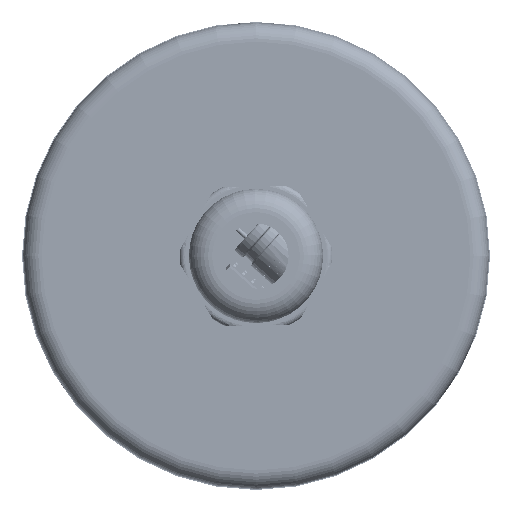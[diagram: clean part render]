
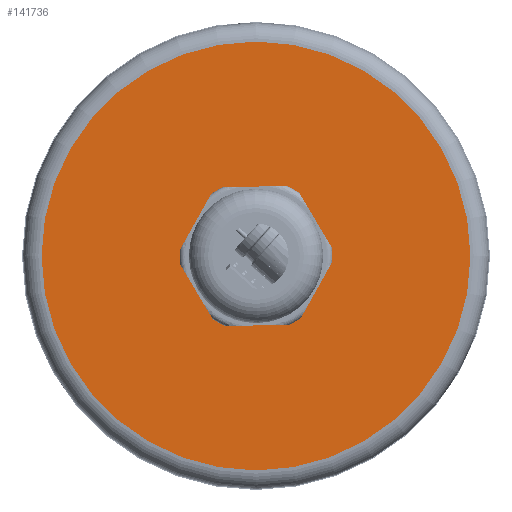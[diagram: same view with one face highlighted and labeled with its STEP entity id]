
A CAD part, front view. The second image highlights one B-rep face of the part: STEP entity #141736.
In plain terms, the highlighted planar face has unit normal (0, -1, 0) as drawn and (0, 1, 0) by its records, which use the part's own axes.
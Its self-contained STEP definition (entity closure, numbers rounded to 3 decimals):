
#146 = FACE_BOUND ( 'NONE', #195448, .T. ) ;
#1704 = DIRECTION ( 'NONE',  ( 0., 0., 1. ) ) ;
#10040 = DIRECTION ( 'NONE',  ( 0., 0., 1. ) ) ;
#21989 = VERTEX_POINT ( 'NONE', #85706 ) ;
#25454 = PLANE ( 'NONE',  #180348 ) ;
#29107 = VERTEX_POINT ( 'NONE', #32243 ) ;
#32243 = CARTESIAN_POINT ( 'NONE',  ( 0., 36., 6. ) ) ;
#34813 = VERTEX_POINT ( 'NONE', #206188 ) ;
#40263 = CIRCLE ( 'NONE', #209214, 6. ) ;
#42384 = CARTESIAN_POINT ( 'NONE',  ( 0., 36., 0. ) ) ;
#44001 = AXIS2_PLACEMENT_3D ( 'NONE', #42384, #158559, #59092 ) ;
#44233 = FACE_OUTER_BOUND ( 'NONE', #136672, .T. ) ;
#44604 = CARTESIAN_POINT ( 'NONE',  ( 0., 36., 0. ) ) ;
#52877 = CIRCLE ( 'NONE', #198294, 23. ) ;
#56603 = ORIENTED_EDGE ( 'NONE', *, *, #114442, .T. ) ;
#58864 = CARTESIAN_POINT ( 'NONE',  ( 0., 36., 0. ) ) ;
#59092 = DIRECTION ( 'NONE',  ( 0., 0., 1. ) ) ;
#61357 = DIRECTION ( 'NONE',  ( 0., 0., 1. ) ) ;
#75602 = DIRECTION ( 'NONE',  ( 0., 1., 0. ) ) ;
#76601 = EDGE_CURVE ( 'NONE', #102028, #29107, #187715, .T. ) ;
#85706 = CARTESIAN_POINT ( 'NONE',  ( 0., 36., 23. ) ) ;
#101154 = DIRECTION ( 'NONE',  ( 0., 1., 0. ) ) ;
#102028 = VERTEX_POINT ( 'NONE', #189280 ) ;
#109461 = DIRECTION ( 'NONE',  ( 0., 1., 0. ) ) ;
#114408 = ORIENTED_EDGE ( 'NONE', *, *, #198096, .F. ) ;
#114442 = EDGE_CURVE ( 'NONE', #21989, #34813, #198569, .T. ) ;
#120175 = AXIS2_PLACEMENT_3D ( 'NONE', #208991, #109461, #10040 ) ;
#125011 = ORIENTED_EDGE ( 'NONE', *, *, #76601, .F. ) ;
#136672 = EDGE_LOOP ( 'NONE', ( #56603, #180713 ) ) ;
#141736 = ADVANCED_FACE ( 'NONE', ( #146, #44233 ), #25454, .T. ) ;
#158559 = DIRECTION ( 'NONE',  ( 0., 1., 0. ) ) ;
#160791 = DIRECTION ( 'NONE',  ( 0., 1., 0. ) ) ;
#180348 = AXIS2_PLACEMENT_3D ( 'NONE', #58864, #75602, #191780 ) ;
#180713 = ORIENTED_EDGE ( 'NONE', *, *, #181725, .T. ) ;
#181725 = EDGE_CURVE ( 'NONE', #34813, #21989, #52877, .T. ) ;
#187715 = CIRCLE ( 'NONE', #44001, 6. ) ;
#189280 = CARTESIAN_POINT ( 'NONE',  ( 0., 36., -6. ) ) ;
#191780 = DIRECTION ( 'NONE',  ( 0., 0., 1. ) ) ;
#195448 = EDGE_LOOP ( 'NONE', ( #114408, #125011 ) ) ;
#198096 = EDGE_CURVE ( 'NONE', #29107, #102028, #40263, .T. ) ;
#198294 = AXIS2_PLACEMENT_3D ( 'NONE', #200642, #101154, #1704 ) ;
#198569 = CIRCLE ( 'NONE', #120175, 23. ) ;
#200642 = CARTESIAN_POINT ( 'NONE',  ( 0., 36., 0. ) ) ;
#206188 = CARTESIAN_POINT ( 'NONE',  ( 0., 36., -23. ) ) ;
#208991 = CARTESIAN_POINT ( 'NONE',  ( 0., 36., 0. ) ) ;
#209214 = AXIS2_PLACEMENT_3D ( 'NONE', #44604, #160791, #61357 ) ;
